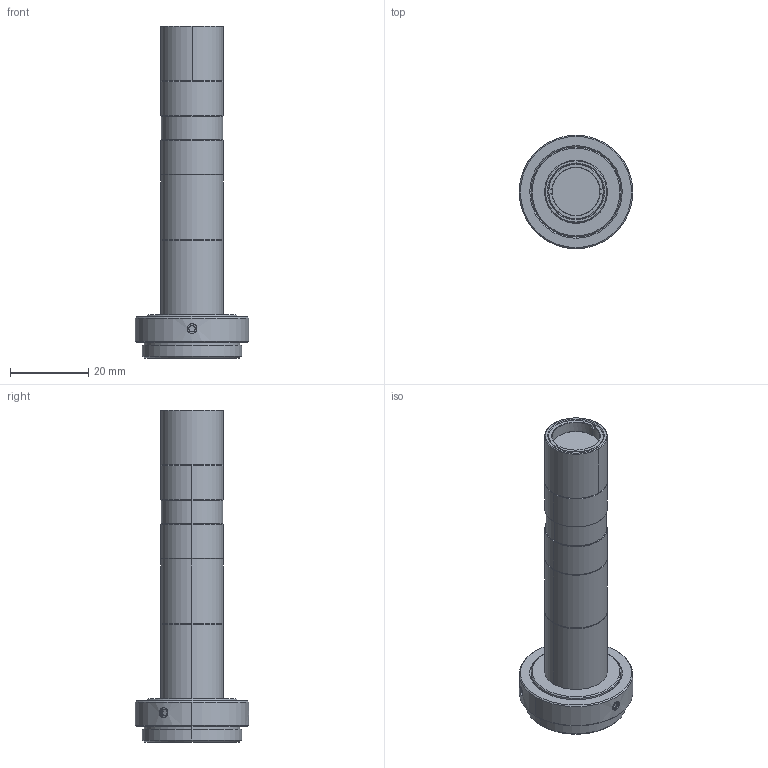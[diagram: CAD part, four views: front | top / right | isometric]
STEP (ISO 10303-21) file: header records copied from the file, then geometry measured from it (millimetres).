
FILE_DESCRIPTION (( 'STEP AP203' ), '1' );
FILE_NAME ('MML6-ST65S_A03954A0100101A-001.STEP', '2013-11-28T02:50:20', ( 'SCHOTT' ), ( 'SCHOTT' ), 'SwSTEP 2.0', 'SolidWorks 2011', '' );
FILE_SCHEMA (( 'CONFIG_CONTROL_DESIGN' ));
Length unit declared in the file: millimetre
Products named in the file (1): MML6-ST65S_A03954A0100101A-001
Bounding box: 29 x 29 x 84.71 mm (x, y, z)
Volume: 16114.3 mm3; surface area: 7402.1 mm2
Topology: 1 solids, 1 shells, 147 faces, 345 edges, 220 vertices
Faces by surface type: cone 61, plane 45, cylinder 41
Entity records: 4494 total; most frequent: CARTESIAN_POINT 1016, DIRECTION 739, ORIENTED_EDGE 690, EDGE_CURVE 345, AXIS2_PLACEMENT_3D 297, VERTEX_POINT 220, EDGE_LOOP 167, CIRCLE 149
